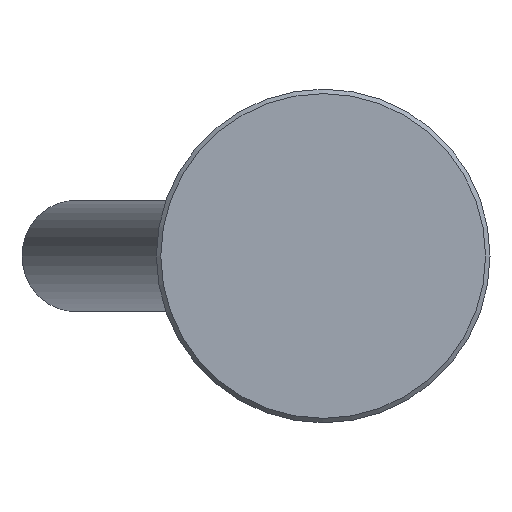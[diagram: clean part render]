
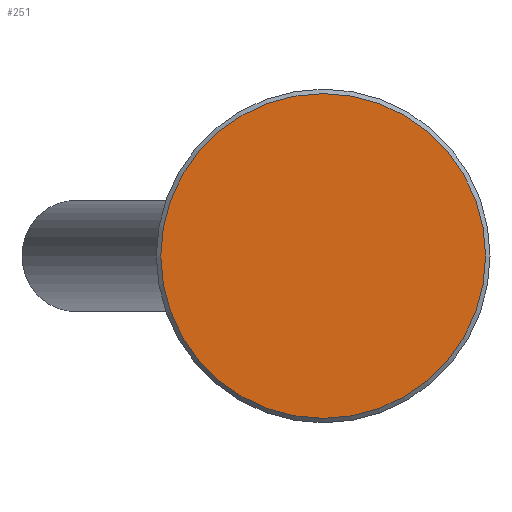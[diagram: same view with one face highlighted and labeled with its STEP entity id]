
A CAD part, front view. The second image highlights one B-rep face of the part: STEP entity #251.
In plain terms, the highlighted planar face has unit normal (0, -1, 0).
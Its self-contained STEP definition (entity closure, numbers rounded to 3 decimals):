
#251 = ADVANCED_FACE( '', ( #477 ), #478, .F. );
#477 = FACE_OUTER_BOUND( '', #677, .T. );
#478 = PLANE( '', #678 );
#677 = EDGE_LOOP( '', ( #1103 ) );
#678 = AXIS2_PLACEMENT_3D( '', #1104, #1105, #1106 );
#1103 = ORIENTED_EDGE( '', *, *, #1194, .T. );
#1104 = CARTESIAN_POINT( '', ( 29.2, 0., 0. ) );
#1105 = DIRECTION( '', ( 0., 1., 0. ) );
#1106 = DIRECTION( '', ( 0., 0., 1. ) );
#1194 = EDGE_CURVE( '', #1403, #1403, #1404, .T. );
#1403 = VERTEX_POINT( '', #1801 );
#1404 = CIRCLE( '', #1802, 29.2 );
#1801 = CARTESIAN_POINT( '', ( 0., 0., -29.2 ) );
#1802 = AXIS2_PLACEMENT_3D( '', #2107, #2108, #2109 );
#2107 = CARTESIAN_POINT( '', ( 0., 0., 0. ) );
#2108 = DIRECTION( '', ( 0., -1., 0. ) );
#2109 = DIRECTION( '', ( 0., 0., -1. ) );
